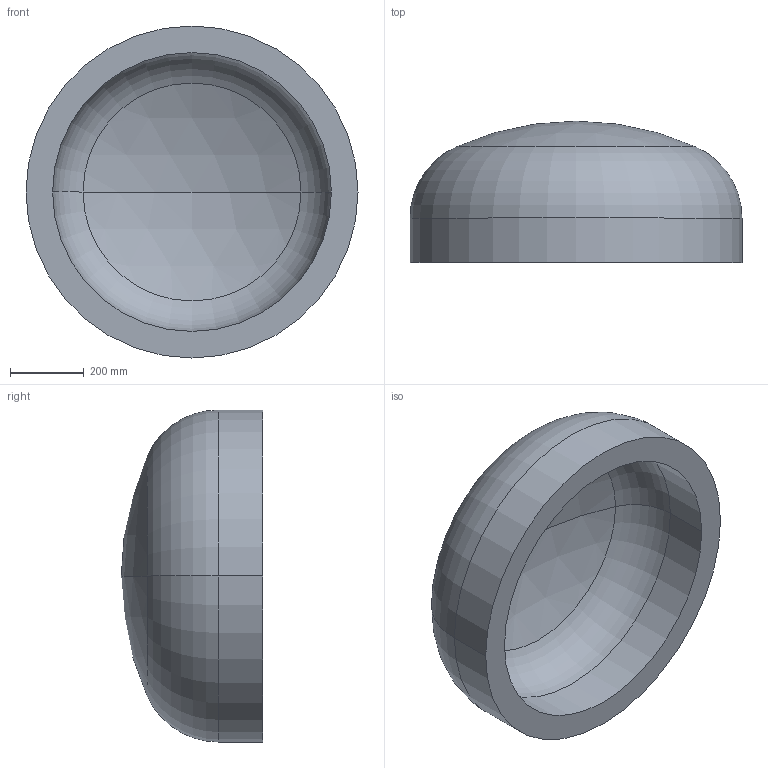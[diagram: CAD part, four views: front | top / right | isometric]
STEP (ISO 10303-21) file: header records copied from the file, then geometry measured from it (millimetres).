
FILE_DESCRIPTION (( 'STEP AP203' ), '1' );
FILE_NAME ('DIN 28013 Korbbogenform_-_Boden DIN 28013 - 900 x 120 - I - s=72.step', '2016-07-01T08:35:29', ( '' ), ( '' ), 'SwSTEP 2.0', 'SolidWorks 2013', '' );
FILE_SCHEMA (( 'CONFIG_CONTROL_DESIGN' ));
Length unit declared in the file: millimetre
Products named in the file (1): DIN 28013 Korbbogenform_-_Boden DIN 28013 - 900 x 120 - I - s=72
Bounding box: 900 x 383.08 x 900 mm (x, y, z)
Volume: 79973737.2 mm3; surface area: 2419638.9 mm2
Topology: 1 solids, 1 shells, 13 faces, 24 edges, 14 vertices
Faces by surface type: torus 4, cylinder 4, sphere 4, plane 1
Entity records: 407 total; most frequent: DIRECTION 72, CARTESIAN_POINT 52, ORIENTED_EDGE 48, AXIS2_PLACEMENT_3D 34, EDGE_CURVE 24, CIRCLE 20, EDGE_LOOP 14, VERTEX_POINT 14
